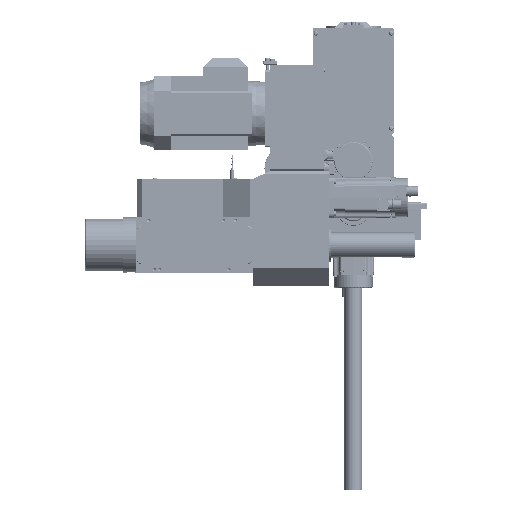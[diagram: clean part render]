
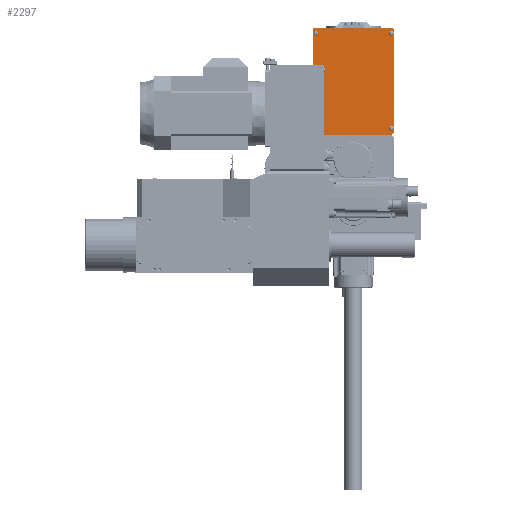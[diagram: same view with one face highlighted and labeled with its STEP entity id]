
A CAD part, front view. The second image highlights one B-rep face of the part: STEP entity #2297.
In plain terms, the highlighted planar face has unit normal (0, -1, 0) as drawn and (0, 0, 1) by its records, which use the part's own axes.
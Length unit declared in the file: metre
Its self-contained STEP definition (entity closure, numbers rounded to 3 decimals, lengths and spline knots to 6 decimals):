
#2297 = ADVANCED_FACE( '', ( #4077 ), #4078, .T. );
#4077 = FACE_OUTER_BOUND( '', #7758, .T. );
#4078 = PLANE( '', #7759 );
#7758 = EDGE_LOOP( '', ( #12925, #12926, #12927, #12928, #12929, #12930, #12931, #12932 ) );
#7759 = AXIS2_PLACEMENT_3D( '', #12933, #12934, #12935 );
#12925 = ORIENTED_EDGE( '', *, *, #22949, .F. );
#12926 = ORIENTED_EDGE( '', *, *, #22953, .F. );
#12927 = ORIENTED_EDGE( '', *, *, #22954, .F. );
#12928 = ORIENTED_EDGE( '', *, *, #22955, .F. );
#12929 = ORIENTED_EDGE( '', *, *, #22956, .F. );
#12930 = ORIENTED_EDGE( '', *, *, #22957, .F. );
#12931 = ORIENTED_EDGE( '', *, *, #22958, .F. );
#12932 = ORIENTED_EDGE( '', *, *, #22959, .F. );
#12933 = CARTESIAN_POINT( '', ( -0.0005, 0.0905, 0.006 ) );
#12934 = DIRECTION( '', ( 0., 0., 1. ) );
#12935 = DIRECTION( '', ( 1., 0., 0. ) );
#22949 = EDGE_CURVE( '', #26358, #26359, #26360, .T. );
#22953 = EDGE_CURVE( '', #26366, #26358, #26367, .T. );
#22954 = EDGE_CURVE( '', #26368, #26366, #26369, .T. );
#22955 = EDGE_CURVE( '', #26370, #26368, #26371, .T. );
#22956 = EDGE_CURVE( '', #26372, #26370, #26373, .T. );
#22957 = EDGE_CURVE( '', #26374, #26372, #26375, .T. );
#22958 = EDGE_CURVE( '', #26376, #26374, #26377, .T. );
#22959 = EDGE_CURVE( '', #26359, #26376, #26378, .T. );
#26358 = VERTEX_POINT( '', #31950 );
#26359 = VERTEX_POINT( '', #31951 );
#26360 = LINE( '', #31952, #31953 );
#26366 = VERTEX_POINT( '', #31962 );
#26367 = LINE( '', #31963, #31964 );
#26368 = VERTEX_POINT( '', #31965 );
#26369 = LINE( '', #31966, #31967 );
#26370 = VERTEX_POINT( '', #31968 );
#26371 = LINE( '', #31969, #31970 );
#26372 = VERTEX_POINT( '', #31971 );
#26373 = LINE( '', #31972, #31973 );
#26374 = VERTEX_POINT( '', #31974 );
#26375 = LINE( '', #31975, #31976 );
#26376 = VERTEX_POINT( '', #31977 );
#26377 = LINE( '', #31978, #31979 );
#26378 = LINE( '', #31980, #31981 );
#31950 = CARTESIAN_POINT( '', ( 0.0875, 0.2085, 0.006 ) );
#31951 = CARTESIAN_POINT( '', ( 0.0895, 0.2065, 0.006 ) );
#31952 = CARTESIAN_POINT( '', ( 0.0955, 0.2005, 0.006 ) );
#31953 = VECTOR( '', #42341, 1. );
#31962 = CARTESIAN_POINT( '', ( -0.0885, 0.2085, 0.006 ) );
#31963 = CARTESIAN_POINT( '', ( 0.0895, 0.2085, 0.006 ) );
#31964 = VECTOR( '', #42345, 1. );
#31965 = CARTESIAN_POINT( '', ( -0.0905, 0.2065, 0.006 ) );
#31966 = CARTESIAN_POINT( '', ( -0.0965, 0.2005, 0.006 ) );
#31967 = VECTOR( '', #42346, 1. );
#31968 = CARTESIAN_POINT( '', ( -0.0905, -0.0225, 0.006 ) );
#31969 = CARTESIAN_POINT( '', ( -0.0905, 0.2085, 0.006 ) );
#31970 = VECTOR( '', #42347, 1. );
#31971 = CARTESIAN_POINT( '', ( -0.0855, -0.0275, 0.006 ) );
#31972 = CARTESIAN_POINT( '', ( -0.095, -0.018, 0.006 ) );
#31973 = VECTOR( '', #42348, 1. );
#31974 = CARTESIAN_POINT( '', ( 0.0845, -0.0275, 0.006 ) );
#31975 = CARTESIAN_POINT( '', ( -0.0905, -0.0275, 0.006 ) );
#31976 = VECTOR( '', #42349, 1. );
#31977 = CARTESIAN_POINT( '', ( 0.0895, -0.0225, 0.006 ) );
#31978 = CARTESIAN_POINT( '', ( 0.094, -0.018, 0.006 ) );
#31979 = VECTOR( '', #42350, 1. );
#31980 = CARTESIAN_POINT( '', ( 0.0895, -0.0275, 0.006 ) );
#31981 = VECTOR( '', #42351, 1. );
#42341 = DIRECTION( '', ( 0.707, -0.707, 0. ) );
#42345 = DIRECTION( '', ( 1., 0., 0. ) );
#42346 = DIRECTION( '', ( 0.707, 0.707, 0. ) );
#42347 = DIRECTION( '', ( 0., 1., 0. ) );
#42348 = DIRECTION( '', ( -0.707, 0.707, 0. ) );
#42349 = DIRECTION( '', ( -1., 0., 0. ) );
#42350 = DIRECTION( '', ( -0.707, -0.707, 0. ) );
#42351 = DIRECTION( '', ( 0., -1., 0. ) );
